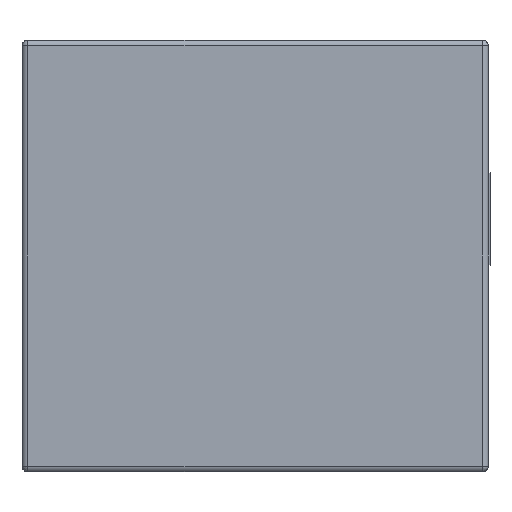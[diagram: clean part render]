
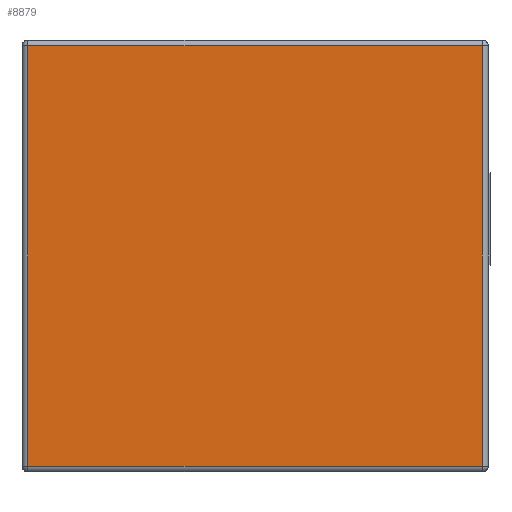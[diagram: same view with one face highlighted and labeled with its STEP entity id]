
A CAD part, front view. The second image highlights one B-rep face of the part: STEP entity #8879.
In plain terms, the highlighted planar face has unit normal (0, -1, 0).
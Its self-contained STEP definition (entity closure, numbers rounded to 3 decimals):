
#8862 = EDGE_CURVE ( 'NONE', #8939, #8883, #18210, .T. ) ;
#8879 = ADVANCED_FACE ( 'NONE', ( #18288 ), #18287, .T. ) ;
#8880 = EDGE_LOOP ( 'NONE', ( #8881, #8934, #8937, #8940 ) ) ;
#8881 = ORIENTED_EDGE ( 'NONE', *, *, #8882, .T. ) ;
#8882 = EDGE_CURVE ( 'NONE', #8883, #8933, #18282, .T. ) ;
#8883 = VERTEX_POINT ( 'NONE', #18278 ) ;
#8933 = VERTEX_POINT ( 'NONE', #18351 ) ;
#8934 = ORIENTED_EDGE ( 'NONE', *, *, #8935, .T. ) ;
#8935 = EDGE_CURVE ( 'NONE', #8933, #8936, #18350, .T. ) ;
#8936 = VERTEX_POINT ( 'NONE', #18346 ) ;
#8937 = ORIENTED_EDGE ( 'NONE', *, *, #8938, .T. ) ;
#8938 = EDGE_CURVE ( 'NONE', #8936, #8939, #18345, .T. ) ;
#8939 = VERTEX_POINT ( 'NONE', #18341 ) ;
#8940 = ORIENTED_EDGE ( 'NONE', *, *, #8862, .T. ) ;
#18207 = DIRECTION ( 'NONE',  ( -1., 0., 0. ) ) ;
#18208 = VECTOR ( 'NONE', #18207, 1000. ) ;
#18209 = CARTESIAN_POINT ( 'NONE',  ( -600., -260., 1380. ) ) ;
#18210 = LINE ( 'NONE', #18209, #18208 ) ;
#18278 = CARTESIAN_POINT ( 'NONE',  ( -580., -260., 1380. ) ) ;
#18279 = DIRECTION ( 'NONE',  ( 0., 0., -1. ) ) ;
#18280 = VECTOR ( 'NONE', #18279, 1000. ) ;
#18281 = CARTESIAN_POINT ( 'NONE',  ( -580., -260., -100. ) ) ;
#18282 = LINE ( 'NONE', #18281, #18280 ) ;
#18283 = DIRECTION ( 'NONE',  ( 0., 0., -1. ) ) ;
#18284 = DIRECTION ( 'NONE',  ( 0., -1., 0. ) ) ;
#18285 = CARTESIAN_POINT ( 'NONE',  ( -600., -260., -100. ) ) ;
#18286 = AXIS2_PLACEMENT_3D ( 'NONE', #18285, #18284, #18283 ) ;
#18287 = PLANE ( 'NONE',  #18286 ) ;
#18288 = FACE_OUTER_BOUND ( 'NONE', #8880, .T. ) ;
#18341 = CARTESIAN_POINT ( 'NONE',  ( 999.48, -260., 1380. ) ) ;
#18342 = DIRECTION ( 'NONE',  ( 0., 0., 1. ) ) ;
#18343 = VECTOR ( 'NONE', #18342, 1000. ) ;
#18344 = CARTESIAN_POINT ( 'NONE',  ( 999.48, -260., 1400. ) ) ;
#18345 = LINE ( 'NONE', #18344, #18343 ) ;
#18346 = CARTESIAN_POINT ( 'NONE',  ( 999.48, -260., -80. ) ) ;
#18347 = DIRECTION ( 'NONE',  ( 1., 0., 0. ) ) ;
#18348 = VECTOR ( 'NONE', #18347, 1000. ) ;
#18349 = CARTESIAN_POINT ( 'NONE',  ( 1019.48, -260., -80. ) ) ;
#18350 = LINE ( 'NONE', #18349, #18348 ) ;
#18351 = CARTESIAN_POINT ( 'NONE',  ( -580., -260., -80. ) ) ;
